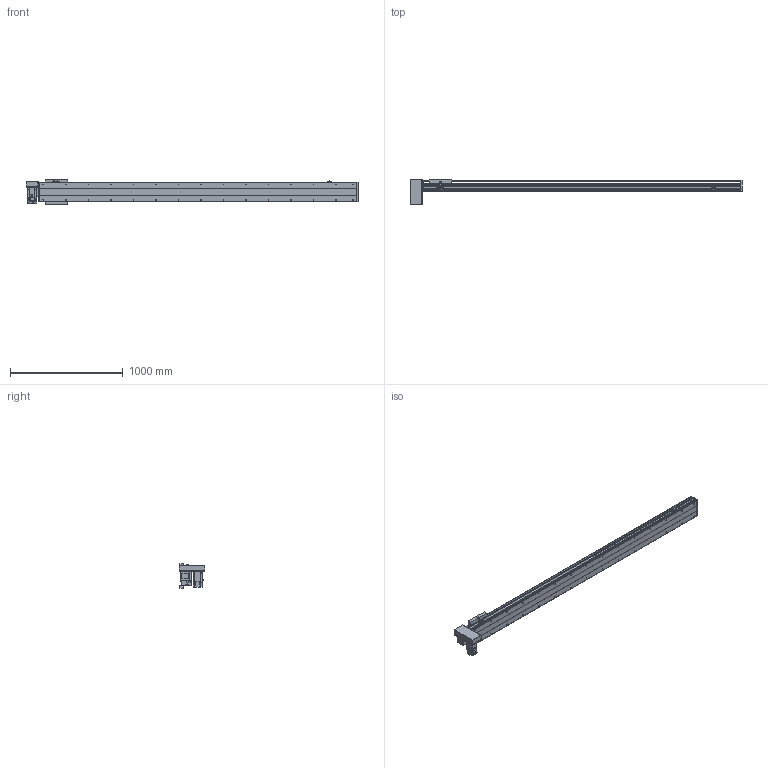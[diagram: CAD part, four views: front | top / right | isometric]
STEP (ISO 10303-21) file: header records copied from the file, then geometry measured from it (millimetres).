
FILE_DESCRIPTION(/* description */ ('STEP AP214'),/* implementation_level */ '2;1');
FILE_NAME(/* name */ 'PBS200-P40-S2450-RD-T75-C1-N(0)',/* time_stamp */ '2022-06-11T09:31:49+02:00',/* author */ ('License CC BY-ND 4.0'),/* organization */ ('CADENAS'),/* preprocessor_version */ 'ST-DEVELOPER v18.102',/* originating_system */ 'PARTsolutions',/* authorisation */ ' ');
FILE_SCHEMA (('AUTOMOTIVE_DESIGN {1 0 10303 214 3 1 1}'));
Length unit declared in the file: millimetre
Products named in the file (7): PBS200-P40-S2450-RD-T75-C1-N(0); PBS200_sensor; PBS200_plant; PBS200_sliser; T75-p1; PBS200T-RD_motors; PBS200-S2450()_body
Assembly tree (8 placements, depth 2):
  PBS200-P40-S2450-RD-T75-C1-N(0)
    PBS200_sensor  x3
    PBS200_plant
    PBS200_sliser
    T75-p1
    PBS200T-RD_motors
    PBS200-S2450()_body
Bounding box: 2950 x 230 x 221 mm (x, y, z)
Volume: 20291827.3 mm3; surface area: 3247048.3 mm2
Topology: 8 solids, 8 shells, 962 faces, 2444 edges, 1590 vertices
Faces by surface type: plane 588, cylinder 312, cone 62
Full cylindrical faces by diameter (mm): 2.459 x6, 3.242 x4, 4.5 x6, 4.917 x4, 5 x6, 6 x7, 6.6 x8, 6.647 x34, 8 x6, 10 x4, 12 x8, 38 x2, 40 x1, 70 x1
Entity records: 25421 total; most frequent: DIRECTION 4495, CARTESIAN_POINT 4318, ORIENTED_EDGE 4066, EDGE_CURVE 2033, AXIS2_PLACEMENT_3D 1591, VERTEX_POINT 1414, LINE 1313, VECTOR 1313
